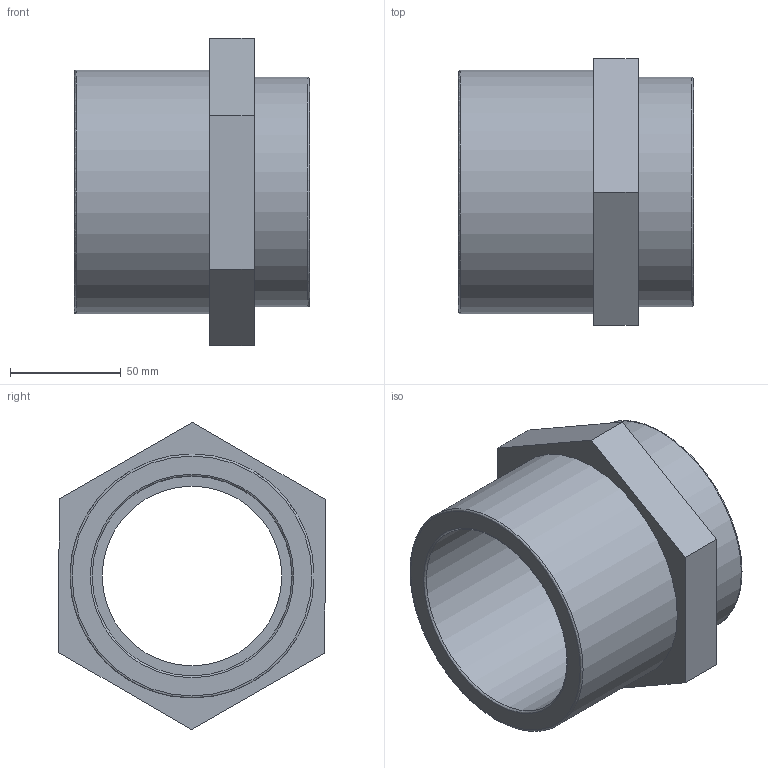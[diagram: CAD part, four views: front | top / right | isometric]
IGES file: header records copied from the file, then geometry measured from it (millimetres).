
Global section: file name: 050202110030.ipt; native system: Autodesk Inventor 2015; preprocessor: unknown; author: KIM; date: 20171207.164357; units: millimetre
Bounding box: 106 x 120.18 x 138.56 mm (x, y, z)
Volume: 395879.1 mm3; surface area: 80945.1 mm2
Topology: 1 solids, 1 shells, 21 faces, 55 edges, 40 vertices
Faces by surface type: plane 12, revolution 7, cylinder 2
Full cylindrical faces by diameter (mm): 103.5 x1, 110 x1
